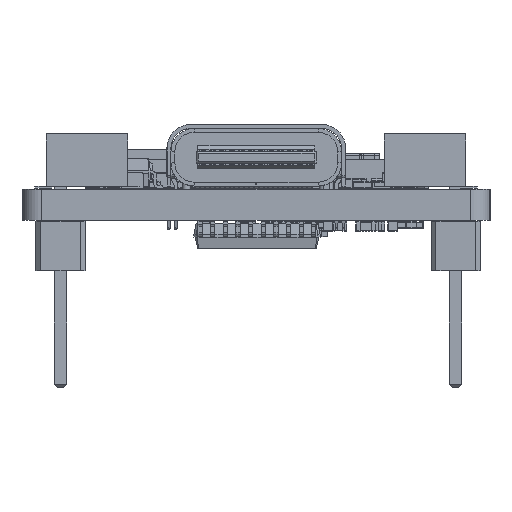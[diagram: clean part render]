
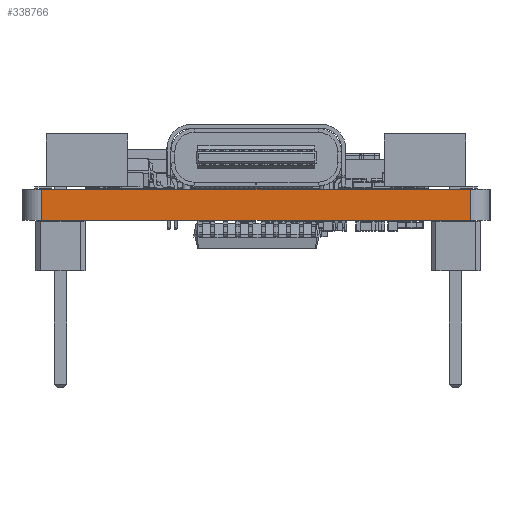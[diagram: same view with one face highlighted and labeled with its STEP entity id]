
A CAD part, left-side view. The second image highlights one B-rep face of the part: STEP entity #338766.
In plain terms, the highlighted planar face has unit normal (-1, 0, 0).
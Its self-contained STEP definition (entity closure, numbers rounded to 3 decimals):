
#334254 = PLANE('',#334255);
#334255 = AXIS2_PLACEMENT_3D('',#334256,#334257,#334258);
#334256 = CARTESIAN_POINT('',(121.857,-81.178,1.6));
#334257 = DIRECTION('',(0.,0.,1.));
#334258 = DIRECTION('',(1.,0.,0.));
#334308 = PLANE('',#334309);
#334309 = AXIS2_PLACEMENT_3D('',#334310,#334311,#334312);
#334310 = CARTESIAN_POINT('',(121.857,-81.178,0.));
#334311 = DIRECTION('',(0.,0.,1.));
#334312 = DIRECTION('',(1.,0.,0.));
#334505 = VERTEX_POINT('',#334506);
#334506 = CARTESIAN_POINT('',(92.075,-70.155,0.));
#334521 = CYLINDRICAL_SURFACE('',#334522,1.016);
#334522 = AXIS2_PLACEMENT_3D('',#334523,#334524,#334525);
#334523 = CARTESIAN_POINT('',(93.091,-70.155,0.));
#334524 = DIRECTION('',(0.,0.,-1.));
#334525 = DIRECTION('',(1.,0.,0.));
#334533 = EDGE_CURVE('',#334505,#334534,#334536,.T.);
#334534 = VERTEX_POINT('',#334535);
#334535 = CARTESIAN_POINT('',(92.075,-92.202,0.));
#334536 = SURFACE_CURVE('',#334537,(#334541,#334548),.PCURVE_S1.);
#334537 = LINE('',#334538,#334539);
#334538 = CARTESIAN_POINT('',(92.075,-70.155,0.));
#334539 = VECTOR('',#334540,1.);
#334540 = DIRECTION('',(0.,-1.,0.));
#334541 = PCURVE('',#334308,#334542);
#334542 = DEFINITIONAL_REPRESENTATION('',(#334543),#334547);
#334543 = LINE('',#334544,#334545);
#334544 = CARTESIAN_POINT('',(-29.782,11.024));
#334545 = VECTOR('',#334546,1.);
#334546 = DIRECTION('',(0.,-1.));
#334547 = ( GEOMETRIC_REPRESENTATION_CONTEXT(2) 
PARAMETRIC_REPRESENTATION_CONTEXT() REPRESENTATION_CONTEXT('2D SPACE',''
  ) );
#334548 = PCURVE('',#334549,#334554);
#334549 = PLANE('',#334550);
#334550 = AXIS2_PLACEMENT_3D('',#334551,#334552,#334553);
#334551 = CARTESIAN_POINT('',(92.075,-70.155,0.));
#334552 = DIRECTION('',(1.,0.,0.));
#334553 = DIRECTION('',(0.,-1.,0.));
#334554 = DEFINITIONAL_REPRESENTATION('',(#334555),#334559);
#334555 = LINE('',#334556,#334557);
#334556 = CARTESIAN_POINT('',(0.,0.));
#334557 = VECTOR('',#334558,1.);
#334558 = DIRECTION('',(1.,0.));
#334559 = ( GEOMETRIC_REPRESENTATION_CONTEXT(2) 
PARAMETRIC_REPRESENTATION_CONTEXT() REPRESENTATION_CONTEXT('2D SPACE',''
  ) );
#334578 = CYLINDRICAL_SURFACE('',#334579,1.016);
#334579 = AXIS2_PLACEMENT_3D('',#334580,#334581,#334582);
#334580 = CARTESIAN_POINT('',(93.091,-92.202,0.));
#334581 = DIRECTION('',(0.,0.,-1.));
#334582 = DIRECTION('',(1.,0.,0.));
#336779 = VERTEX_POINT('',#336780);
#336780 = CARTESIAN_POINT('',(92.075,-70.155,1.6));
#336802 = EDGE_CURVE('',#336779,#336803,#336805,.T.);
#336803 = VERTEX_POINT('',#336804);
#336804 = CARTESIAN_POINT('',(92.075,-92.202,1.6));
#336805 = SURFACE_CURVE('',#336806,(#336810,#336817),.PCURVE_S1.);
#336806 = LINE('',#336807,#336808);
#336807 = CARTESIAN_POINT('',(92.075,-70.155,1.6));
#336808 = VECTOR('',#336809,1.);
#336809 = DIRECTION('',(0.,-1.,0.));
#336810 = PCURVE('',#334254,#336811);
#336811 = DEFINITIONAL_REPRESENTATION('',(#336812),#336816);
#336812 = LINE('',#336813,#336814);
#336813 = CARTESIAN_POINT('',(-29.782,11.024));
#336814 = VECTOR('',#336815,1.);
#336815 = DIRECTION('',(0.,-1.));
#336816 = ( GEOMETRIC_REPRESENTATION_CONTEXT(2) 
PARAMETRIC_REPRESENTATION_CONTEXT() REPRESENTATION_CONTEXT('2D SPACE',''
  ) );
#336817 = PCURVE('',#334549,#336818);
#336818 = DEFINITIONAL_REPRESENTATION('',(#336819),#336823);
#336819 = LINE('',#336820,#336821);
#336820 = CARTESIAN_POINT('',(0.,-1.6));
#336821 = VECTOR('',#336822,1.);
#336822 = DIRECTION('',(1.,0.));
#336823 = ( GEOMETRIC_REPRESENTATION_CONTEXT(2) 
PARAMETRIC_REPRESENTATION_CONTEXT() REPRESENTATION_CONTEXT('2D SPACE',''
  ) );
#338716 = EDGE_CURVE('',#334534,#336803,#338717,.T.);
#338717 = SURFACE_CURVE('',#338718,(#338722,#338729),.PCURVE_S1.);
#338718 = LINE('',#338719,#338720);
#338719 = CARTESIAN_POINT('',(92.075,-92.202,0.));
#338720 = VECTOR('',#338721,1.);
#338721 = DIRECTION('',(0.,0.,1.));
#338722 = PCURVE('',#334578,#338723);
#338723 = DEFINITIONAL_REPRESENTATION('',(#338724),#338728);
#338724 = LINE('',#338725,#338726);
#338725 = CARTESIAN_POINT('',(-3.142,0.));
#338726 = VECTOR('',#338727,1.);
#338727 = DIRECTION('',(0.,-1.));
#338728 = ( GEOMETRIC_REPRESENTATION_CONTEXT(2) 
PARAMETRIC_REPRESENTATION_CONTEXT() REPRESENTATION_CONTEXT('2D SPACE',''
  ) );
#338729 = PCURVE('',#334549,#338730);
#338730 = DEFINITIONAL_REPRESENTATION('',(#338731),#338735);
#338731 = LINE('',#338732,#338733);
#338732 = CARTESIAN_POINT('',(22.047,0.));
#338733 = VECTOR('',#338734,1.);
#338734 = DIRECTION('',(0.,-1.));
#338735 = ( GEOMETRIC_REPRESENTATION_CONTEXT(2) 
PARAMETRIC_REPRESENTATION_CONTEXT() REPRESENTATION_CONTEXT('2D SPACE',''
  ) );
#338745 = EDGE_CURVE('',#334505,#336779,#338746,.T.);
#338746 = SURFACE_CURVE('',#338747,(#338751,#338758),.PCURVE_S1.);
#338747 = LINE('',#338748,#338749);
#338748 = CARTESIAN_POINT('',(92.075,-70.155,0.));
#338749 = VECTOR('',#338750,1.);
#338750 = DIRECTION('',(0.,0.,1.));
#338751 = PCURVE('',#334521,#338752);
#338752 = DEFINITIONAL_REPRESENTATION('',(#338753),#338757);
#338753 = LINE('',#338754,#338755);
#338754 = CARTESIAN_POINT('',(-3.142,0.));
#338755 = VECTOR('',#338756,1.);
#338756 = DIRECTION('',(0.,-1.));
#338757 = ( GEOMETRIC_REPRESENTATION_CONTEXT(2) 
PARAMETRIC_REPRESENTATION_CONTEXT() REPRESENTATION_CONTEXT('2D SPACE',''
  ) );
#338758 = PCURVE('',#334549,#338759);
#338759 = DEFINITIONAL_REPRESENTATION('',(#338760),#338764);
#338760 = LINE('',#338761,#338762);
#338761 = CARTESIAN_POINT('',(0.,0.));
#338762 = VECTOR('',#338763,1.);
#338763 = DIRECTION('',(0.,-1.));
#338764 = ( GEOMETRIC_REPRESENTATION_CONTEXT(2) 
PARAMETRIC_REPRESENTATION_CONTEXT() REPRESENTATION_CONTEXT('2D SPACE',''
  ) );
#338766 = ADVANCED_FACE('',(#338767),#334549,.F.);
#338767 = FACE_BOUND('',#338768,.F.);
#338768 = EDGE_LOOP('',(#338769,#338770,#338771,#338772));
#338769 = ORIENTED_EDGE('',*,*,#338745,.T.);
#338770 = ORIENTED_EDGE('',*,*,#336802,.T.);
#338771 = ORIENTED_EDGE('',*,*,#338716,.F.);
#338772 = ORIENTED_EDGE('',*,*,#334533,.F.);
